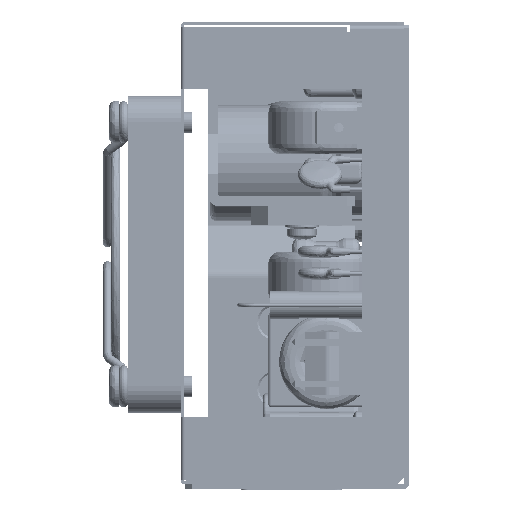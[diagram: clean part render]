
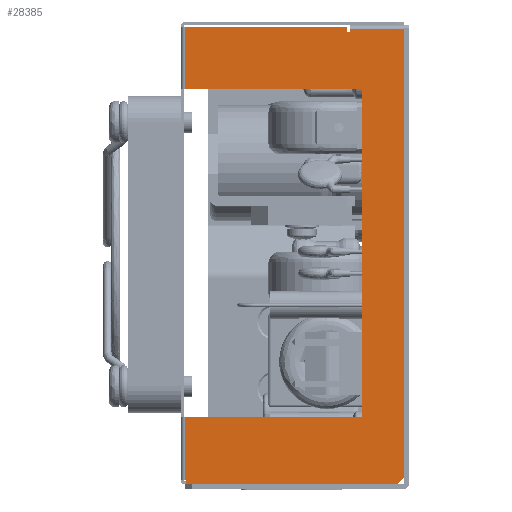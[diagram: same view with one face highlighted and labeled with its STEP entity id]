
A CAD part, left-side view. The second image highlights one B-rep face of the part: STEP entity #28385.
In plain terms, the highlighted planar face has unit normal (-1, 0, 0).
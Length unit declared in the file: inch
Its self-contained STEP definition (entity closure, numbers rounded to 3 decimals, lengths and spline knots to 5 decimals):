
#256 = VECTOR ( 'NONE', #83526, 39.37008 ) ;
#728 = DIRECTION ( 'NONE',  ( 0., -1., 0. ) ) ;
#1101 = LINE ( 'NONE', #34431, #110893 ) ;
#2581 = ORIENTED_EDGE ( 'NONE', *, *, #120575, .T. ) ;
#4532 = DIRECTION ( 'NONE',  ( -1., 0., 0. ) ) ;
#5537 = ORIENTED_EDGE ( 'NONE', *, *, #112809, .T. ) ;
#8506 = CARTESIAN_POINT ( 'NONE',  ( -2.75, 0.847, -1.232 ) ) ;
#11514 = VERTEX_POINT ( 'NONE', #96400 ) ;
#12553 = VERTEX_POINT ( 'NONE', #44074 ) ;
#12869 = CARTESIAN_POINT ( 'NONE',  ( -2.75, 0.04164, 0.0085 ) ) ;
#17236 = CARTESIAN_POINT ( 'NONE',  ( -2.75, 0.847, 1.215 ) ) ;
#17895 = ORIENTED_EDGE ( 'NONE', *, *, #33234, .T. ) ;
#18311 = VERTEX_POINT ( 'NONE', #81241 ) ;
#20096 = LINE ( 'NONE', #45501, #129966 ) ;
#23959 = VERTEX_POINT ( 'NONE', #48180 ) ;
#24015 = DIRECTION ( 'NONE',  ( 0., 0., 1. ) ) ;
#28385 = ADVANCED_FACE ( 'NONE', ( #30073 ), #131909, .T. ) ;
#28483 = ORIENTED_EDGE ( 'NONE', *, *, #136895, .T. ) ;
#29399 = EDGE_CURVE ( 'NONE', #76801, #116329, #129713, .T. ) ;
#29862 = CARTESIAN_POINT ( 'NONE',  ( -2.75, 0.03, -1.232 ) ) ;
#30073 = FACE_OUTER_BOUND ( 'NONE', #46290, .T. ) ;
#33234 = EDGE_CURVE ( 'NONE', #137340, #12553, #49140, .T. ) ;
#33970 = LINE ( 'NONE', #62451, #115511 ) ;
#34241 = DIRECTION ( 'NONE',  ( 0., 0., 1. ) ) ;
#34431 = CARTESIAN_POINT ( 'NONE',  ( -2.75, 0.03, 1.4465 ) ) ;
#34533 = EDGE_CURVE ( 'NONE', #116329, #18311, #88752, .T. ) ;
#35071 = VECTOR ( 'NONE', #728, 39.37008 ) ;
#35411 = CARTESIAN_POINT ( 'NONE',  ( -2.75, 1.614, 1.715 ) ) ;
#35682 = CARTESIAN_POINT ( 'NONE',  ( -2.75, 1.664, 1.715 ) ) ;
#36358 = VERTEX_POINT ( 'NONE', #82378 ) ;
#37312 = ORIENTED_EDGE ( 'NONE', *, *, #117490, .T. ) ;
#37672 = DIRECTION ( 'NONE',  ( 0., -1., 0. ) ) ;
#40575 = VERTEX_POINT ( 'NONE', #121733 ) ;
#43279 = DIRECTION ( 'NONE',  ( 0., 0., 1. ) ) ;
#44074 = CARTESIAN_POINT ( 'NONE',  ( -2.75, 0.04164, 1.715 ) ) ;
#44182 = CARTESIAN_POINT ( 'NONE',  ( -2.75, 0.03, 1.678 ) ) ;
#44459 = EDGE_CURVE ( 'NONE', #18311, #36358, #20096, .T. ) ;
#45501 = CARTESIAN_POINT ( 'NONE',  ( -2.75, 0.847, -1.678 ) ) ;
#46043 = DIRECTION ( 'NONE',  ( 0., 0.707, -0.707 ) ) ;
#46290 = EDGE_LOOP ( 'NONE', ( #28483, #68722, #2581, #53722, #49244, #37312, #93410, #90482, #108507, #17895, #125724, #112152, #136729, #122050, #5537 ) ) ;
#48180 = CARTESIAN_POINT ( 'NONE',  ( -2.75, 1.264, -1.658 ) ) ;
#48838 = VECTOR ( 'NONE', #124902, 39.37008 ) ;
#49140 = LINE ( 'NONE', #12869, #74185 ) ;
#49244 = ORIENTED_EDGE ( 'NONE', *, *, #118277, .T. ) ;
#49690 = LINE ( 'NONE', #99999, #102986 ) ;
#50104 = EDGE_CURVE ( 'NONE', #12553, #76801, #88479, .T. ) ;
#53205 = VECTOR ( 'NONE', #24015, 39.37008 ) ;
#53722 = ORIENTED_EDGE ( 'NONE', *, *, #113196, .T. ) ;
#55195 = VERTEX_POINT ( 'NONE', #29862 ) ;
#56299 = VECTOR ( 'NONE', #43279, 39.37008 ) ;
#58943 = DIRECTION ( 'NONE',  ( 0., 0., -1. ) ) ;
#60336 = VECTOR ( 'NONE', #58943, 39.37008 ) ;
#60378 = CARTESIAN_POINT ( 'NONE',  ( -2.75, 0.03, -1.465 ) ) ;
#62451 = CARTESIAN_POINT ( 'NONE',  ( -2.75, 0.847, -1.658 ) ) ;
#66227 = VECTOR ( 'NONE', #71152, 39.37008 ) ;
#68722 = ORIENTED_EDGE ( 'NONE', *, *, #97698, .T. ) ;
#69758 = VECTOR ( 'NONE', #46043, 39.37008 ) ;
#71152 = DIRECTION ( 'NONE',  ( 0., 0., 1. ) ) ;
#72249 = DIRECTION ( 'NONE',  ( 0., 1., 0. ) ) ;
#72889 = EDGE_CURVE ( 'NONE', #105526, #135376, #98054, .T. ) ;
#74185 = VECTOR ( 'NONE', #34241, 39.37008 ) ;
#76801 = VERTEX_POINT ( 'NONE', #80047 ) ;
#76850 = CARTESIAN_POINT ( 'NONE',  ( -2.75, 0.04164, 1.678 ) ) ;
#78951 = DIRECTION ( 'NONE',  ( 0., 0., -1. ) ) ;
#80047 = CARTESIAN_POINT ( 'NONE',  ( -2.75, 1.614, 1.715 ) ) ;
#80576 = LINE ( 'NONE', #124473, #48838 ) ;
#81241 = CARTESIAN_POINT ( 'NONE',  ( -2.75, 1.664, -1.678 ) ) ;
#82378 = CARTESIAN_POINT ( 'NONE',  ( -2.75, 1.264, -1.678 ) ) ;
#83526 = DIRECTION ( 'NONE',  ( 0., 1., 0. ) ) ;
#84685 = LINE ( 'NONE', #107034, #56299 ) ;
#88479 = LINE ( 'NONE', #94253, #256 ) ;
#88752 = LINE ( 'NONE', #101351, #60336 ) ;
#90482 = ORIENTED_EDGE ( 'NONE', *, *, #123407, .T. ) ;
#93330 = CARTESIAN_POINT ( 'NONE',  ( -2.75, 1.664, 1.665 ) ) ;
#93410 = ORIENTED_EDGE ( 'NONE', *, *, #72889, .T. ) ;
#94253 = CARTESIAN_POINT ( 'NONE',  ( -2.75, 0.847, 1.715 ) ) ;
#94627 = LINE ( 'NONE', #60378, #66227 ) ;
#95333 = CARTESIAN_POINT ( 'NONE',  ( -2.75, 0.03, -1.698 ) ) ;
#96400 = CARTESIAN_POINT ( 'NONE',  ( -2.75, 1.239, -1.658 ) ) ;
#97698 = EDGE_CURVE ( 'NONE', #11514, #125690, #80576, .T. ) ;
#98054 = LINE ( 'NONE', #17236, #129635 ) ;
#99999 = CARTESIAN_POINT ( 'NONE',  ( -2.75, 0.847, 1.678 ) ) ;
#101351 = CARTESIAN_POINT ( 'NONE',  ( -2.75, 1.664, 0.0085 ) ) ;
#102986 = VECTOR ( 'NONE', #136206, 39.37008 ) ;
#103538 = VERTEX_POINT ( 'NONE', #44182 ) ;
#105526 = VERTEX_POINT ( 'NONE', #133619 ) ;
#106295 = VECTOR ( 'NONE', #72249, 39.37008 ) ;
#106698 = CARTESIAN_POINT ( 'NONE',  ( -2.75, 0.847, -1.698 ) ) ;
#107034 = CARTESIAN_POINT ( 'NONE',  ( -2.75, 1.264, 0.0085 ) ) ;
#108507 = ORIENTED_EDGE ( 'NONE', *, *, #121342, .T. ) ;
#108774 = DIRECTION ( 'NONE',  ( 0., -1., 0. ) ) ;
#109867 = LINE ( 'NONE', #119446, #53205 ) ;
#110893 = VECTOR ( 'NONE', #130226, 39.37008 ) ;
#112152 = ORIENTED_EDGE ( 'NONE', *, *, #29399, .T. ) ;
#112809 = EDGE_CURVE ( 'NONE', #36358, #23959, #84685, .T. ) ;
#113196 = EDGE_CURVE ( 'NONE', #114568, #55195, #94627, .T. ) ;
#114568 = VERTEX_POINT ( 'NONE', #95333 ) ;
#115511 = VECTOR ( 'NONE', #126283, 39.37008 ) ;
#116329 = VERTEX_POINT ( 'NONE', #93330 ) ;
#116594 = LINE ( 'NONE', #106698, #35071 ) ;
#117490 = EDGE_CURVE ( 'NONE', #40575, #105526, #109867, .T. ) ;
#118277 = EDGE_CURVE ( 'NONE', #55195, #40575, #134638, .T. ) ;
#118771 = CARTESIAN_POINT ( 'NONE',  ( -2.75, 0.03, 1.215 ) ) ;
#119446 = CARTESIAN_POINT ( 'NONE',  ( -2.75, 1.354, 0.0085 ) ) ;
#120575 = EDGE_CURVE ( 'NONE', #125690, #114568, #116594, .T. ) ;
#121342 = EDGE_CURVE ( 'NONE', #103538, #137340, #49690, .T. ) ;
#121733 = CARTESIAN_POINT ( 'NONE',  ( -2.75, 1.354, -1.232 ) ) ;
#122050 = ORIENTED_EDGE ( 'NONE', *, *, #44459, .T. ) ;
#123407 = EDGE_CURVE ( 'NONE', #135376, #103538, #1101, .T. ) ;
#124473 = CARTESIAN_POINT ( 'NONE',  ( -2.75, 1.239, 0.0085 ) ) ;
#124902 = DIRECTION ( 'NONE',  ( 0., 0., -1. ) ) ;
#125690 = VERTEX_POINT ( 'NONE', #132490 ) ;
#125724 = ORIENTED_EDGE ( 'NONE', *, *, #50104, .T. ) ;
#126283 = DIRECTION ( 'NONE',  ( 0., -1., 0. ) ) ;
#129635 = VECTOR ( 'NONE', #37672, 39.37008 ) ;
#129713 = LINE ( 'NONE', #35411, #69758 ) ;
#129966 = VECTOR ( 'NONE', #108774, 39.37008 ) ;
#130226 = DIRECTION ( 'NONE',  ( 0., 0., 1. ) ) ;
#131306 = AXIS2_PLACEMENT_3D ( 'NONE', #35682, #4532, #78951 ) ;
#131909 = PLANE ( 'NONE',  #131306 ) ;
#132490 = CARTESIAN_POINT ( 'NONE',  ( -2.75, 1.239, -1.698 ) ) ;
#133619 = CARTESIAN_POINT ( 'NONE',  ( -2.75, 1.354, 1.215 ) ) ;
#134638 = LINE ( 'NONE', #8506, #106295 ) ;
#135376 = VERTEX_POINT ( 'NONE', #118771 ) ;
#136206 = DIRECTION ( 'NONE',  ( 0., 1., 0. ) ) ;
#136729 = ORIENTED_EDGE ( 'NONE', *, *, #34533, .T. ) ;
#136895 = EDGE_CURVE ( 'NONE', #23959, #11514, #33970, .T. ) ;
#137340 = VERTEX_POINT ( 'NONE', #76850 ) ;
